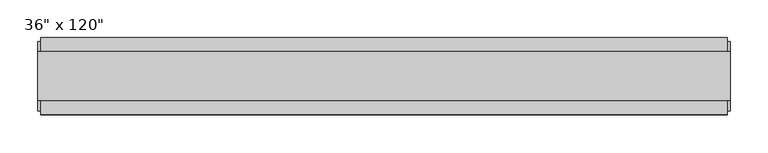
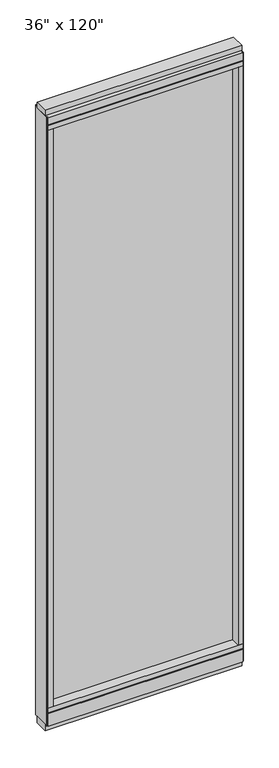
"""IFC4 building model written with IfcOpenShell, lengths in millimetres: furniture geometry."""

from ifc_helpers import new_model, si_unit, frame, origin, origin_with_axes, place, context, project, spatial, polyline, outline, extrude, source, transform, mapped, element, save


def furniture_33152e10(model_context):
    return source(origin(), model_context, "Body", "SweptSolid", [
        extrude(outline(polyline([(371.0014771, -9.5977216), (-491.0745229, -9.5977216), (-491.0745229, 0.5622784), (371.0014771, 0.5622784), (371.0014771, -9.5977216)])), frame((0.0, 0.0, 120.523), z_axis=(0.0, 0.0, 1.0), x_axis=(1.0, 0.0, 0.0)), (0.0, 0.0, 1.0), 2838.577),
        extrude(outline(polyline([(-55.3177216, 93.345), (-50.3647216, 93.345), (-50.3647216, 98.298), (41.3292784, 98.298), (41.3292784, 93.345), (46.2822784, 93.345), (46.2822784, 31.75), (-55.3177216, 31.75), (-55.3177216, 93.345)])), frame((-513.2995229, 0.0, 0.0), z_axis=(1.0, 0.0, 0.0), x_axis=(0.0, 1.0, 0.0)), (0.0, 0.0, 1.0), 906.526),
        extrude(outline(polyline([(-513.2995229, -55.3177216), (-513.2995229, 46.2822784), (393.2264771, 46.2822784), (393.2264771, -55.3177216), (-513.2995229, -55.3177216)])), frame((0.0, 0.0, 98.298), z_axis=(0.0, 0.0, 1.0), x_axis=(1.0, 0.0, 0.0)), (0.0, 0.0, 1.0), 22.225),
        extrude(outline(polyline([(397.1634771, 27.9942784), (397.1634771, -37.0297216), (-517.2365229, -37.0297216), (-517.2365229, 27.9942784), (397.1634771, 27.9942784)])), origin_with_axes(), (0.0, 0.0, 1.0), 31.75),
        extrude(outline(polyline([(-517.2365229, -37.0297216), (-517.2365229, 27.9942784), (397.1634771, 27.9942784), (397.1634771, -37.0297216), (-517.2365229, -37.0297216)])), frame((0.0, 0.0, 3022.6), z_axis=(0.0, 0.0, 1.0), x_axis=(1.0, 0.0, 0.0)), (0.0, 0.0, 1.0), 25.4),
        extrude(outline(polyline([(-55.3177216, 2986.278), (-55.3177216, 3022.6), (46.2822784, 3022.6), (46.2822784, 2986.278), (41.3292784, 2986.278), (41.3292784, 2981.325), (-50.3647216, 2981.325), (-50.3647216, 2986.278), (-55.3177216, 2986.278)])), frame((-513.2995229, 0.0, 0.0), z_axis=(1.0, 0.0, 0.0), x_axis=(0.0, 1.0, 0.0)), (0.0, 0.0, 1.0), 906.526),
        extrude(outline(polyline([(393.2264771, 46.2822784), (393.2264771, -55.3177216), (-513.2995229, -55.3177216), (-513.2995229, 46.2822784), (393.2264771, 46.2822784)])), frame((0.0, 0.0, 2959.1), z_axis=(0.0, 0.0, 1.0), x_axis=(1.0, 0.0, 0.0)), (0.0, 0.0, 1.0), 22.225),
        extrude(outline(polyline([(371.0014771, -55.3177216), (371.0014771, 46.2822784), (393.2264771, 46.2822784), (393.2264771, -55.3177216), (371.0014771, -55.3177216)])), frame((0.0, 0.0, 120.523), z_axis=(0.0, 0.0, 1.0), x_axis=(1.0, 0.0, 0.0)), (0.0, 0.0, 1.0), 2838.577),
        extrude(outline(polyline([(-491.0745229, -55.3177216), (-513.2995229, -55.3177216), (-513.2995229, 46.2822784), (-491.0745229, 46.2822784), (-491.0745229, -55.3177216)])), frame((0.0, 0.0, 120.523), z_axis=(0.0, 0.0, 1.0), x_axis=(1.0, 0.0, 0.0)), (0.0, 0.0, 1.0), 2838.577),
        extrude(outline(polyline([(397.1634771, -50.3647216), (393.2264771, -50.3647216), (393.2264771, 41.3292784), (397.1634771, 41.3292784), (397.1634771, -50.3647216)])), frame((0.0, 0.0, 31.75), z_axis=(0.0, 0.0, 1.0), x_axis=(1.0, 0.0, 0.0)), (0.0, 0.0, 1.0), 2990.85),
        extrude(outline(polyline([(-517.2365229, -50.3647216), (-517.2365229, 41.3292784), (-513.2995229, 41.3292784), (-513.2995229, -50.3647216), (-517.2365229, -50.3647216)])), frame((0.0, 0.0, 31.75), z_axis=(0.0, 0.0, 1.0), x_axis=(1.0, 0.0, 0.0)), (0.0, 0.0, 1.0), 2990.85),
    ])


if __name__ == "__main__":
    model = new_model("IFC4")
    model_context = context("Model", 3, world=origin())
    ifc_project = project(units=[si_unit("LENGTHUNIT", "METRE", prefix="MILLI")], contexts=[model_context])
    site = spatial("IfcSite", under=ifc_project)
    building = spatial("IfcBuilding", under=site)
    placement = place(None, origin())
    furniture_shape = furniture_33152e10(model_context)
    element("IfcFurniture", 1, ObjectType="Haworth_Enclose_Wall_Glass : 36\" x 120\"", at=placement, inside=building, context=model_context, shape_type="MappedRepresentation", body=[
        mapped(furniture_shape, transform((0.0, 0.0, 0.0), x_axis=(1.0, 0.0, 0.0), y_axis=(0.0, 1.0, 0.0), z_axis=(0.0, 0.0, 1.0))),
    ])
    save(model, "model.ifc")
